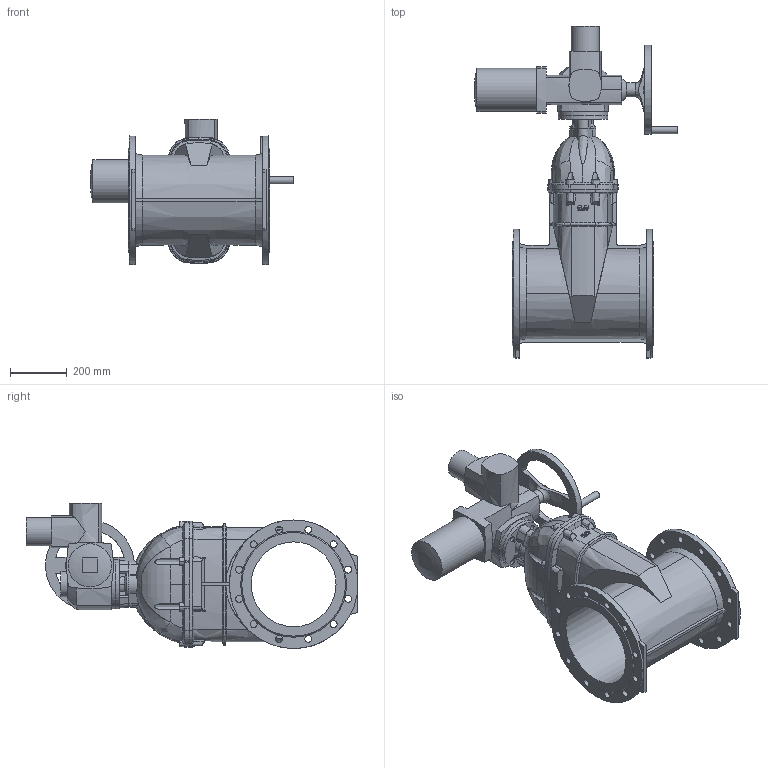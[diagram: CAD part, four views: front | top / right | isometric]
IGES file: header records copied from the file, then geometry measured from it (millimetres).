
Start section: SolidWorks IGES file using analytic representation for surfaces
Global section: file name: D:\Arthur\For Will\Finished\O_15_72_DN300 with AUMA\O_15_72_DN300_00_iges with AUMA.IGS; native system: SolidWorks 2012; preprocessor: SolidWorks 2012; author: aran; date: 150611.154241; units: millimetre
Bounding box: 721 x 1174.5 x 513.5 mm (x, y, z)
Surface area: 2547923.9 mm2 (no closed solid volume)
Topology: 0 solids, 0 shells, 499 faces, 2697 edges, 2613 vertices
Faces by surface type: revolution 298, bspline 201
